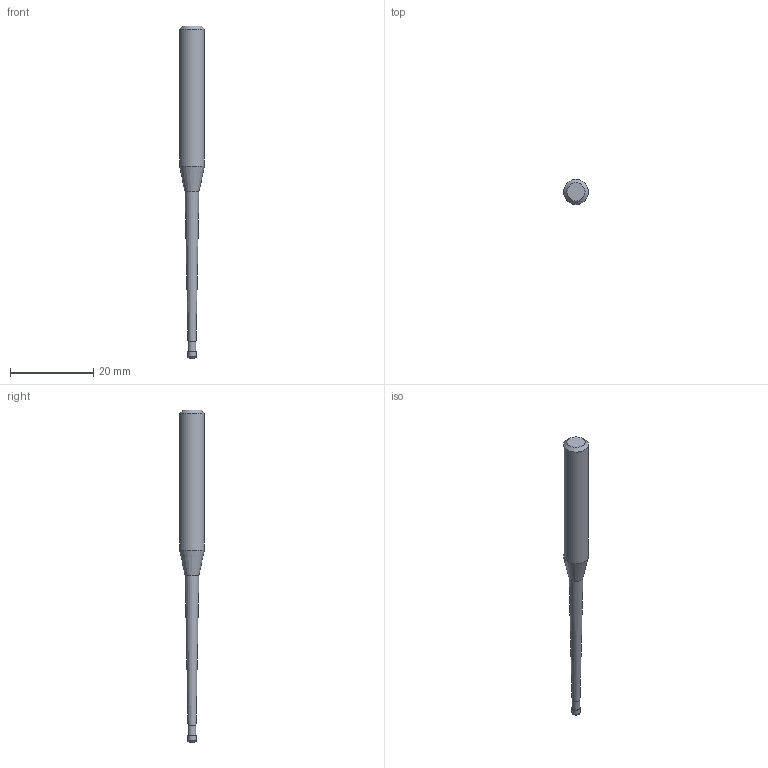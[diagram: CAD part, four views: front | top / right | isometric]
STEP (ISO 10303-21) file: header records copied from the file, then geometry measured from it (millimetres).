
FILE_DESCRIPTION((''),'2;1');
FILE_NAME('C:\Users\nsx150\AppData\Local\Temp\Mastercam 2021\YKS1SUSFZB\TEMP.step','2025-06-23T14:04:42',(''),(''),'STEP Write','Mastercam 2021 ... CNC Software, Inc.','');
FILE_SCHEMA(('AUTOMOTIVE_DESIGN'));
Length unit declared in the file: millimetre
Products named in the file (1): None
Bounding box: 6 x 6 x 80 mm (x, y, z)
Volume: 1270.8 mm3; surface area: 1078.9 mm2
Topology: 2 solids, 2 shells, 11 faces, 16 edges, 9 vertices
Faces by surface type: plane 4, cylinder 3, cone 3, torus 1
Full cylindrical faces by diameter (mm): 1.92 x1, 2 x1, 6 x1
Entity records: 253 total; most frequent: DIRECTION 44, CARTESIAN_POINT 31, AXIS2_PLACEMENT_3D 22, ORIENTED_EDGE 18, EDGE_LOOP 18, STYLED_ITEM 14, ADVANCED_FACE 11, FACE_BOUND 11
